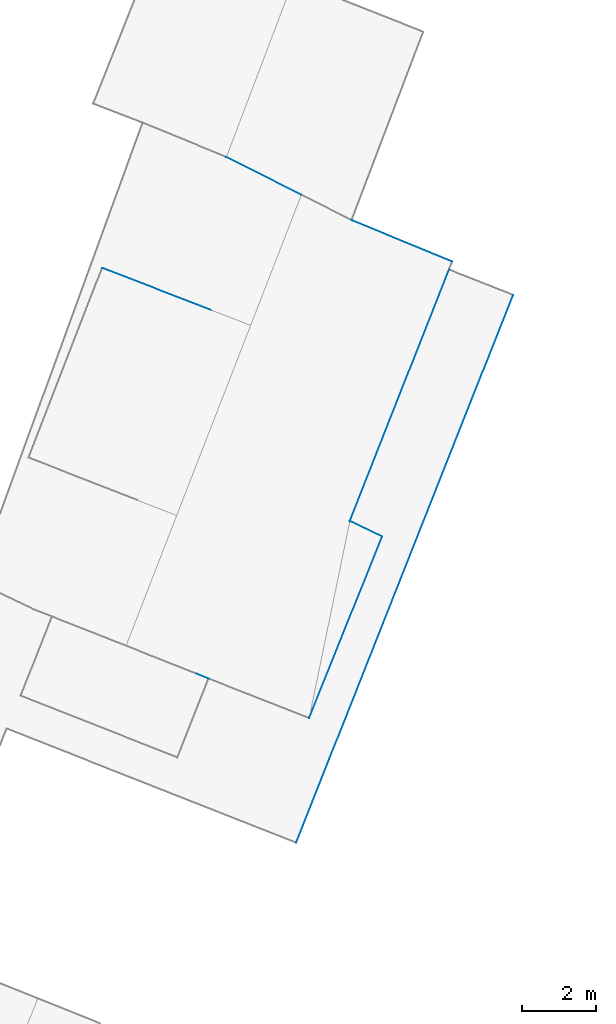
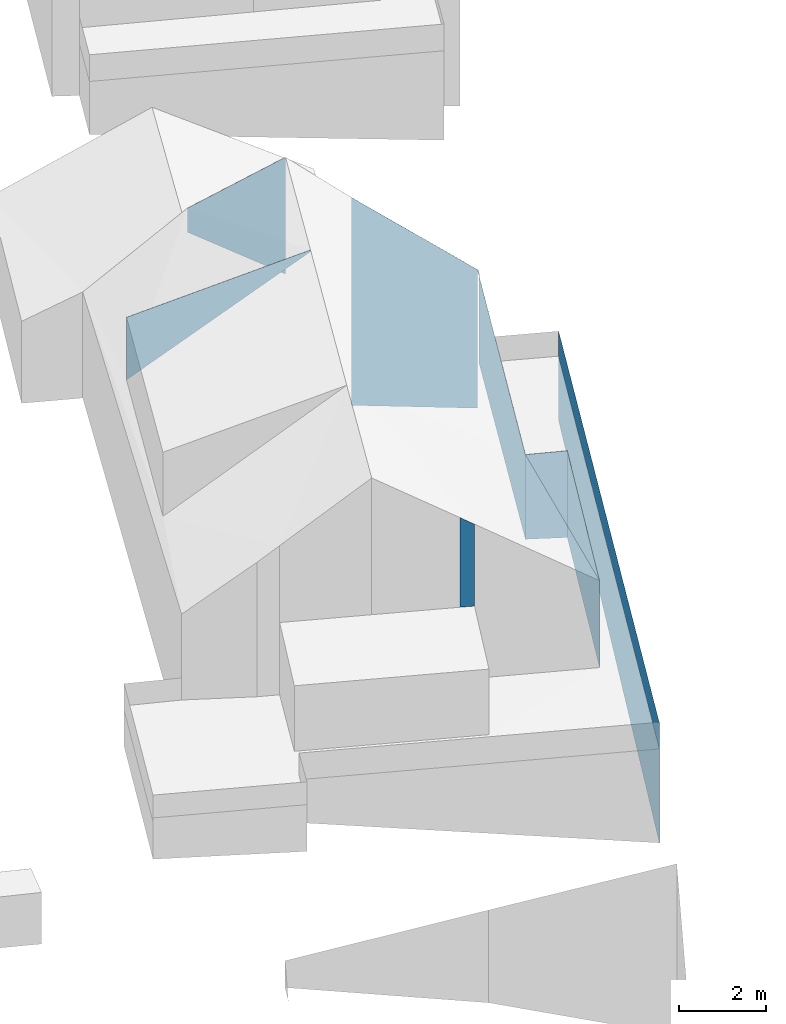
# Not in any storey, part 32 of 57: 10 walls.
"""IFC4 building model written with IfcOpenShell, lengths in metres."""

from ifc_helpers import new_model, entity, si_unit, converted_unit, frame, origin, place, context, subcontext, project, spatial, face_set, surface_model, element, save


model = new_model("IFC4")

# Units and contexts
model_context = context("Model", 3, precision=1e-05, world=origin())
body_context = subcontext(model_context, "Body", "Model", "MODEL_VIEW")
ifc_project = project(units=[converted_unit("PLANEANGLEUNIT", "DEGREE", entity("IfcRatioMeasure", 0.0174532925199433), si_unit("PLANEANGLEUNIT", "RADIAN"), dimensions=[0, 0, 0, 0, 0, 0, 0]), si_unit("AREAUNIT", "SQUARE_METRE"), si_unit("LENGTHUNIT", "METRE")], contexts=[model_context])

# Site, building
site_placement = place(None, origin())
site = spatial("IfcSite", under=ifc_project, at=site_placement, Name="_site")
building_placement = place(site_placement, origin())
building = spatial("IfcBuilding", under=site, at=building_placement, Name="_building")

# Walls
wall_1_placement = place(building_placement, origin())
element("IfcWall", 1, at=wall_1_placement, inside=building, Name="Wall", PredefinedType="NOTDEFINED", context=body_context, shape_type="SurfaceModel", body=[
    surface_model("IfcFaceBasedSurfaceModel", [(273.276, 86.812, 109.86), (274.146, 86.392, 109.92), (274.146, 86.392, 107.48), (273.276, 86.812, 107.48)], [face_set([[[0, 1, 2, 3]]])]),
])
wall_2_placement = place(building_placement, origin())
element("IfcWall", 2, at=wall_2_placement, inside=building, Name="Wall", PredefinedType="NOTDEFINED", context=body_context, shape_type="SurfaceModel", body=[
    surface_model("IfcFaceBasedSurfaceModel", [(269.953, 96.606, 112.01), (271.97, 95.589, 113.35), (271.97, 95.589, 110.062), (269.953, 96.606, 111.33)], [face_set([[[0, 1, 2, 3]]])]),
])
wall_3_placement = place(building_placement, origin())
element("IfcWall", 3, at=wall_3_placement, inside=building, Name="Wall", PredefinedType="NOTDEFINED", context=body_context, shape_type="SurfaceModel", body=[
    surface_model("IfcFaceBasedSurfaceModel", [(266.611, 93.622, 111.92), (270.607, 92.078, 113.35), (270.607, 92.078, 113.3), (266.611, 93.622, 110.16)], [face_set([[[0, 1, 2, 3]]])]),
])
wall_4_placement = place(building_placement, origin())
element("IfcWall", 4, at=wall_4_placement, inside=building, Name="Wall", PredefinedType="NOTDEFINED", context=body_context, shape_type="SurfaceModel", body=[
    surface_model("IfcFaceBasedSurfaceModel", [(275.946, 93.574, 109.86), (273.276, 86.812, 109.86), (273.276, 86.812, 107.48), (275.946, 93.574, 107.4)], [face_set([[[0, 1, 2, 3]]])]),
])
wall_5_placement = place(building_placement, origin())
element("IfcWall", 5, at=wall_5_placement, inside=building, Name="Wall", PredefinedType="NOTDEFINED", context=body_context, shape_type="SurfaceModel", body=[
    surface_model("IfcFaceBasedSurfaceModel", [(274.146, 86.392, 109.92), (272.181, 81.504, 109.92), (272.181, 81.504, 107.48), (274.146, 86.392, 107.48)], [face_set([[[0, 1, 2, 3]]])]),
])
wall_6_placement = place(building_placement, origin())
element("IfcWall", 6, at=wall_6_placement, inside=building, Name="Wall", PredefinedType="NOTDEFINED", context=body_context, shape_type="SurfaceModel", body=[
    surface_model("IfcFaceBasedSurfaceModel", [(277.671, 92.893, 107.4), (271.832, 78.151, 107.4), (271.832, 78.151, 104.712), (277.671, 92.893, 105.576)], [face_set([[[0, 1, 2, 3]]])]),
])
wall_7_placement = place(building_placement, origin())
element("IfcWall", 7, at=wall_7_placement, inside=building, Name="Wall", PredefinedType="NOTDEFINED", context=body_context, shape_type="SurfaceModel", body=[
    surface_model("IfcFaceBasedSurfaceModel", [(269.474, 82.568, 111.81), (269.157, 82.696, 112.03), (269.157, 82.696, 109.51), (269.474, 82.568, 109.51)], [face_set([[[0, 1, 2, 3]]])]),
])
wall_8_placement = place(building_placement, origin())
element("IfcWall", 8, at=wall_8_placement, inside=building, Name="Wall", PredefinedType="NOTDEFINED", context=body_context, shape_type="SurfaceModel", body=[
    surface_model("IfcFaceBasedSurfaceModel", [(273.325, 94.906, 112.16), (276.031, 93.792, 109.86), (276.031, 93.792, 105.966), (273.325, 94.906, 106.317)], [face_set([[[0, 1, 2, 3]]])]),
])
for number, where, name in (
    (9, (0.0, 0.0, 0.0), "Wall"),
    (10, (0.0, 0.0, 0.0), "Wall"),
):
    element("IfcWall", number, at=place(building_placement, frame(where)), inside=building, Name=name, PredefinedType="NOTDEFINED", context=body_context, shape_type="SurfaceModel", body=[
        surface_model("IfcFaceBasedSurfaceModel", [(271.832, 78.151, 107.35), (277.671, 92.893, 107.35), (277.671, 92.893, 108.1), (271.832, 78.151, 108.1)], [face_set([[[0, 1, 2, 3]]])]),
    ])

save(model, "model.ifc")
